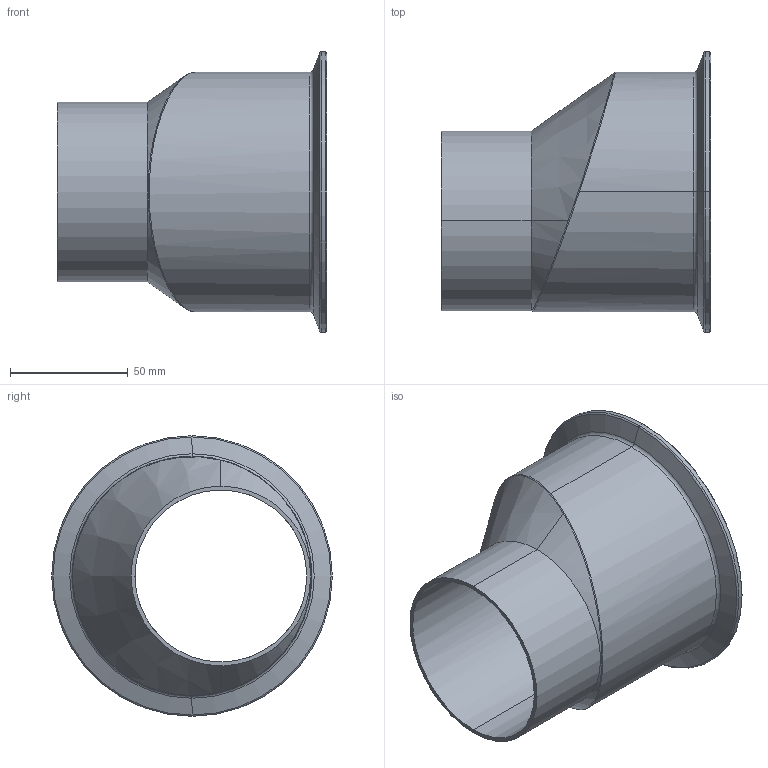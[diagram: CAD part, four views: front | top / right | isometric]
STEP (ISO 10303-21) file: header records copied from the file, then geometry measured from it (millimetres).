
FILE_DESCRIPTION (( 'STEP AP214' ), '1' );
FILE_NAME ('TE32SCW6L4.0x3.0-...STEP', '2016-06-01T11:05:10', ( 'eran' ), ( '' ), 'SwSTEP 2.0', 'SolidWorks 2016', '' );
FILE_SCHEMA (( 'AUTOMOTIVE_DESIGN' ));
Length unit declared in the file: millimetre
Products named in the file (1): TE32SCW6L4.0x3.0-..
Bounding box: 114.3 x 119 x 119 mm (x, y, z)
Volume: 196414.6 mm3; surface area: 69151.2 mm2
Topology: 1 solids, 1 shells, 45 faces, 99 edges, 55 vertices
Faces by surface type: cone 15, torus 13, cylinder 10, bspline 4, plane 3
Entity records: 2096 total; most frequent: CARTESIAN_POINT 1091, DIRECTION 220, ORIENTED_EDGE 194, AXIS2_PLACEMENT_3D 98, EDGE_CURVE 97, CIRCLE 56, VERTEX_POINT 55, EDGE_LOOP 48
